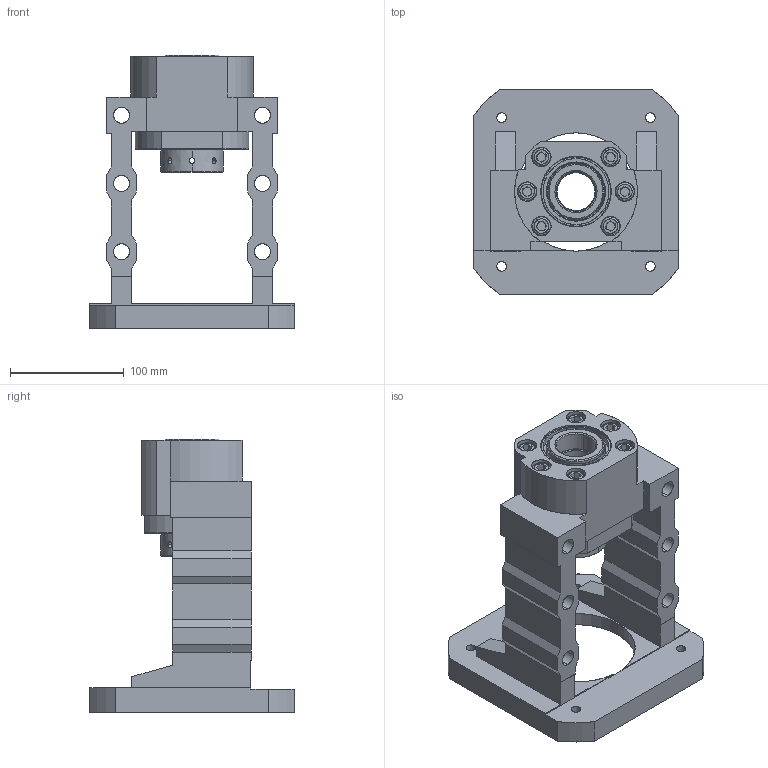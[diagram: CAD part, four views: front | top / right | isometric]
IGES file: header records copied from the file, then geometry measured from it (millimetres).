
Start section: SolidWorks IGES file using analytic representation for surfaces
Bounding box: 180 x 180 x 241 mm (x, y, z)
Surface area: 237414.6 mm2 (no closed solid volume)
Topology: 0 solids, 0 shells, 342 faces, 6144 edges, 6136 vertices
Faces by surface type: revolution 176, bspline 166
